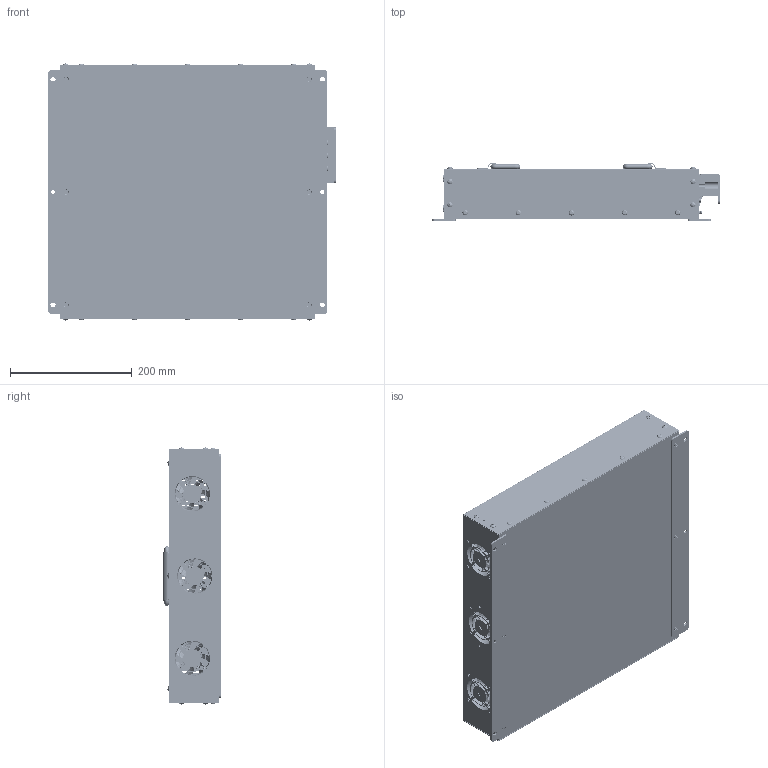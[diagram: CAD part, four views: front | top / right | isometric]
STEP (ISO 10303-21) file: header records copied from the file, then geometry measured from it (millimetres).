
FILE_DESCRIPTION(/* description */ (''),/* implementation_level */ '2;1');
FILE_NAME(/* name */ '',/* time_stamp */ '2026-06-08T15:16:59+09:00',/* author */ ('Administrator'),/* organization */ (''),/* preprocessor_version */ 'ST-DEVELOPER v20.1',/* originating_system */ 'Autodesk Inventor 2026',/* authorisation */ '');
FILE_SCHEMA (('AUTOMOTIVE_DESIGN { 1 0 10303 214 3 1 1 }'));
Products named in the file (1): OLED_VW3COM_Handle2_2026.06.08_단순화_2
Bounding box: 471.28 x 95.23 x 421.84 mm (x, y, z)
Volume: 951044.6 mm3; surface area: 1177266.4 mm2
Topology: 22 solids, 22 shells, 6368 faces, 16816 edges, 10969 vertices
Faces by surface type: plane 3453, cylinder 1396, bspline 1241, torus 170, cone 77, sphere 31
Full cylindrical faces by diameter (mm): 0.013 x9, 0.6 x3, 0.609 x1, 0.61 x27, 0.635 x9, 0.7 x18, 0.75 x18, 0.85 x3, 0.9 x24, 1 x5, 1.397 x9, 1.5 x4, 2.1 x4, 2.286 x9, 2.5 x4, 2.8 x12, 2.957 x12, 3 x6, 3.048 x4, 3.4 x5, 3.6 x2, 3.783 x2, 3.8 x48, 3.9 x2, 4 x23, 4.3 x12, 4.5 x28, 5 x19, 5.3 x20, 5.4 x6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
Entity records: 232461 total; most frequent: CARTESIAN_POINT 73287, ORIENTED_EDGE 33584, DIRECTION 28064, EDGE_CURVE 16792, VERTEX_POINT 10969, LINE 10200, VECTOR 10200, AXIS2_PLACEMENT_3D 8932
